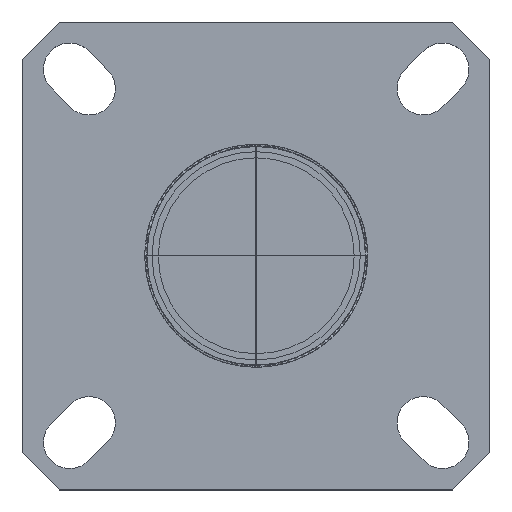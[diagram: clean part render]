
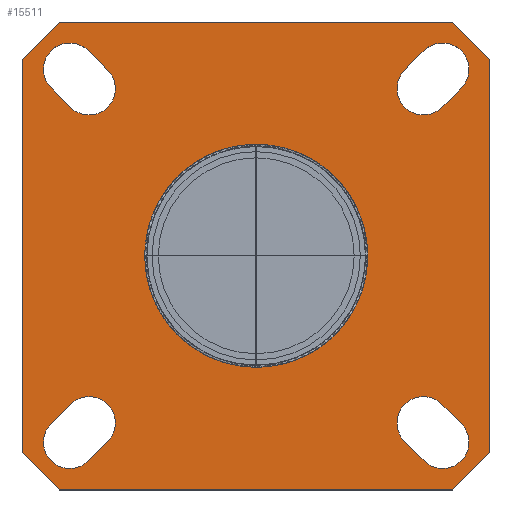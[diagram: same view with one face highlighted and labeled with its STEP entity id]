
A CAD part, top view. The second image highlights one B-rep face of the part: STEP entity #15511.
In plain terms, the highlighted planar face has unit normal (0, 0, 1).
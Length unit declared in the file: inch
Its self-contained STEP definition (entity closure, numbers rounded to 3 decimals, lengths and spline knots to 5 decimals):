
#5010=CARTESIAN_POINT('',(0.,0.,0.));
#5011=DIRECTION('',(0.,0.,1.));
#5012=DIRECTION('',(1.,0.,0.));
#5013=AXIS2_PLACEMENT_3D('',#5010,#5011,#5012);
#6504=DIRECTION('',(0.707,0.707,0.));
#6505=VECTOR('',#6504,0.128);
#6506=CARTESIAN_POINT('',(-0.569,0.47749,0.));
#6507=LINE('',#6506,#6505);
#6508=DIRECTION('',(1.,0.,0.));
#6509=VECTOR('',#6508,0.95598);
#6510=CARTESIAN_POINT('',(-0.47849,0.568,0.));
#6511=LINE('',#6510,#6509);
#6512=DIRECTION('',(0.707,-0.707,0.));
#6513=VECTOR('',#6512,0.128);
#6514=CARTESIAN_POINT('',(0.47749,0.568,0.));
#6515=LINE('',#6514,#6513);
#6516=DIRECTION('',(0.,-1.,0.));
#6517=VECTOR('',#6516,0.95598);
#6518=CARTESIAN_POINT('',(0.568,0.47749,0.));
#6519=LINE('',#6518,#6517);
#6520=DIRECTION('',(-0.707,-0.707,0.));
#6521=VECTOR('',#6520,0.128);
#6522=CARTESIAN_POINT('',(0.568,-0.47849,0.));
#6523=LINE('',#6522,#6521);
#6524=DIRECTION('',(-1.,0.,0.));
#6525=VECTOR('',#6524,0.95598);
#6526=CARTESIAN_POINT('',(0.47749,-0.569,0.));
#6527=LINE('',#6526,#6525);
#6528=DIRECTION('',(-0.707,0.707,0.));
#6529=VECTOR('',#6528,0.128);
#6530=CARTESIAN_POINT('',(-0.47849,-0.569,0.));
#6531=LINE('',#6530,#6529);
#6532=DIRECTION('',(0.,1.,0.));
#6533=VECTOR('',#6532,0.95598);
#6534=CARTESIAN_POINT('',(-0.569,-0.47849,0.));
#6535=LINE('',#6534,#6533);
#6536=DIRECTION('',(-0.707,-0.707,0.));
#6537=VECTOR('',#6536,0.06647);
#6538=CARTESIAN_POINT('',(-0.45125,-0.36075,0.));
#6539=LINE('',#6538,#6537);
#6540=CARTESIAN_POINT('',(-0.453,-0.453,0.));
#6541=DIRECTION('',(0.,0.,1.));
#6542=DIRECTION('',(-0.707,0.707,0.));
#6543=AXIS2_PLACEMENT_3D('',#6540,#6541,#6542);
#6545=DIRECTION('',(0.707,0.707,0.));
#6546=VECTOR('',#6545,0.06647);
#6547=CARTESIAN_POINT('',(-0.40775,-0.49825,0.));
#6548=LINE('',#6547,#6546);
#6549=CARTESIAN_POINT('',(-0.406,-0.406,0.));
#6550=DIRECTION('',(0.,0.,1.));
#6551=DIRECTION('',(0.707,-0.707,0.));
#6552=AXIS2_PLACEMENT_3D('',#6549,#6550,#6551);
#6554=DIRECTION('',(0.707,-0.707,0.));
#6555=VECTOR('',#6554,0.06647);
#6556=CARTESIAN_POINT('',(-0.49825,0.40775,0.));
#6557=LINE('',#6556,#6555);
#6558=CARTESIAN_POINT('',(-0.406,0.406,0.));
#6559=DIRECTION('',(0.,0.,1.));
#6560=DIRECTION('',(-0.707,-0.707,0.));
#6561=AXIS2_PLACEMENT_3D('',#6558,#6559,#6560);
#6563=DIRECTION('',(-0.707,0.707,0.));
#6564=VECTOR('',#6563,0.06647);
#6565=CARTESIAN_POINT('',(-0.36075,0.45125,0.));
#6566=LINE('',#6565,#6564);
#6567=CARTESIAN_POINT('',(-0.453,0.453,0.));
#6568=DIRECTION('',(0.,0.,1.));
#6569=DIRECTION('',(0.707,0.707,0.));
#6570=AXIS2_PLACEMENT_3D('',#6567,#6568,#6569);
#6572=DIRECTION('',(-0.707,-0.707,0.));
#6573=VECTOR('',#6572,0.06647);
#6574=CARTESIAN_POINT('',(0.40775,0.49825,0.));
#6575=LINE('',#6574,#6573);
#6576=CARTESIAN_POINT('',(0.406,0.406,0.));
#6577=DIRECTION('',(0.,0.,1.));
#6578=DIRECTION('',(-0.707,0.707,0.));
#6579=AXIS2_PLACEMENT_3D('',#6576,#6577,#6578);
#6581=DIRECTION('',(0.707,0.707,0.));
#6582=VECTOR('',#6581,0.06647);
#6583=CARTESIAN_POINT('',(0.45125,0.36075,0.));
#6584=LINE('',#6583,#6582);
#6585=CARTESIAN_POINT('',(0.453,0.453,0.));
#6586=DIRECTION('',(0.,0.,1.));
#6587=DIRECTION('',(0.707,-0.707,0.));
#6588=AXIS2_PLACEMENT_3D('',#6585,#6586,#6587);
#6590=CARTESIAN_POINT('',(0.406,-0.406,0.));
#6591=DIRECTION('',(0.,0.,1.));
#6592=DIRECTION('',(0.707,0.707,0.));
#6593=AXIS2_PLACEMENT_3D('',#6590,#6591,#6592);
#6595=DIRECTION('',(0.707,-0.707,0.));
#6596=VECTOR('',#6595,0.06647);
#6597=CARTESIAN_POINT('',(0.36075,-0.45125,0.));
#6598=LINE('',#6597,#6596);
#6599=CARTESIAN_POINT('',(0.453,-0.453,0.));
#6600=DIRECTION('',(0.,0.,1.));
#6601=DIRECTION('',(-0.707,-0.707,0.));
#6602=AXIS2_PLACEMENT_3D('',#6599,#6600,#6601);
#6604=DIRECTION('',(-0.707,0.707,0.));
#6605=VECTOR('',#6604,0.06647);
#6606=CARTESIAN_POINT('',(0.49825,-0.40775,0.));
#6607=LINE('',#6606,#6605);
#6808=CARTESIAN_POINT('',(0.,0.,0.));
#6809=DIRECTION('',(0.,0.,1.));
#6810=DIRECTION('',(-1.,0.,0.));
#6811=AXIS2_PLACEMENT_3D('',#6808,#6809,#6810);
#11686=CARTESIAN_POINT('',(-0.569,0.47749,0.));
#11687=CARTESIAN_POINT('',(-0.47849,0.568,0.));
#11688=VERTEX_POINT('',#11686);
#11689=VERTEX_POINT('',#11687);
#11690=CARTESIAN_POINT('',(0.47749,0.568,0.));
#11691=VERTEX_POINT('',#11690);
#11692=CARTESIAN_POINT('',(0.568,0.47749,0.));
#11693=VERTEX_POINT('',#11692);
#11694=CARTESIAN_POINT('',(0.568,-0.47849,0.));
#11695=VERTEX_POINT('',#11694);
#11696=CARTESIAN_POINT('',(0.47749,-0.569,0.));
#11697=VERTEX_POINT('',#11696);
#11698=CARTESIAN_POINT('',(-0.47849,-0.569,0.));
#11699=VERTEX_POINT('',#11698);
#11700=CARTESIAN_POINT('',(-0.569,-0.47849,0.));
#11701=VERTEX_POINT('',#11700);
#11702=CARTESIAN_POINT('',(-0.45125,-0.36075,0.));
#11703=CARTESIAN_POINT('',(-0.49825,-0.40775,0.));
#11704=VERTEX_POINT('',#11702);
#11705=VERTEX_POINT('',#11703);
#11706=CARTESIAN_POINT('',(-0.40775,-0.49825,0.));
#11707=VERTEX_POINT('',#11706);
#11708=CARTESIAN_POINT('',(-0.36075,-0.45125,0.));
#11709=VERTEX_POINT('',#11708);
#11710=CARTESIAN_POINT('',(-0.49825,0.40775,0.));
#11711=CARTESIAN_POINT('',(-0.45125,0.36075,0.));
#11712=VERTEX_POINT('',#11710);
#11713=VERTEX_POINT('',#11711);
#11714=CARTESIAN_POINT('',(-0.36075,0.45125,0.));
#11715=VERTEX_POINT('',#11714);
#11716=CARTESIAN_POINT('',(-0.40775,0.49825,0.));
#11717=VERTEX_POINT('',#11716);
#11718=CARTESIAN_POINT('',(0.40775,0.49825,0.));
#11719=CARTESIAN_POINT('',(0.36075,0.45125,0.));
#11720=VERTEX_POINT('',#11718);
#11721=VERTEX_POINT('',#11719);
#11722=CARTESIAN_POINT('',(0.45125,0.36075,0.));
#11723=VERTEX_POINT('',#11722);
#11724=CARTESIAN_POINT('',(0.49825,0.40775,0.));
#11725=VERTEX_POINT('',#11724);
#11726=CARTESIAN_POINT('',(0.45125,-0.36075,0.));
#11727=CARTESIAN_POINT('',(0.36075,-0.45125,0.));
#11728=VERTEX_POINT('',#11726);
#11729=VERTEX_POINT('',#11727);
#11730=CARTESIAN_POINT('',(0.40775,-0.49825,0.));
#11731=VERTEX_POINT('',#11730);
#11732=CARTESIAN_POINT('',(0.49825,-0.40775,0.));
#11733=VERTEX_POINT('',#11732);
#11782=CARTESIAN_POINT('',(0.2705,0.,0.));
#11783=CARTESIAN_POINT('',(-0.2705,0.,0.));
#11784=VERTEX_POINT('',#11782);
#11785=VERTEX_POINT('',#11783);
#15443=CARTESIAN_POINT('',(0.,0.,0.));
#15444=DIRECTION('',(0.,0.,-1.));
#15445=DIRECTION('',(0.,-1.,0.));
#15446=AXIS2_PLACEMENT_3D('',#15443,#15444,#15445);
#15447=PLANE('',#15446);
#15449=ORIENTED_EDGE('',*,*,#15448,.T.);
#15451=ORIENTED_EDGE('',*,*,#15450,.T.);
#15453=ORIENTED_EDGE('',*,*,#15452,.T.);
#15455=ORIENTED_EDGE('',*,*,#15454,.T.);
#15457=ORIENTED_EDGE('',*,*,#15456,.T.);
#15459=ORIENTED_EDGE('',*,*,#15458,.T.);
#15461=ORIENTED_EDGE('',*,*,#15460,.T.);
#15463=ORIENTED_EDGE('',*,*,#15462,.T.);
#15464=EDGE_LOOP('',(#15449,#15451,#15453,#15455,#15457,#15459,#15461,#15463));
#15465=FACE_OUTER_BOUND('',#15464,.F.);
#15467=ORIENTED_EDGE('',*,*,#15466,.T.);
#15469=ORIENTED_EDGE('',*,*,#15468,.T.);
#15471=ORIENTED_EDGE('',*,*,#15470,.T.);
#15473=ORIENTED_EDGE('',*,*,#15472,.T.);
#15474=EDGE_LOOP('',(#15467,#15469,#15471,#15473));
#15475=FACE_BOUND('',#15474,.F.);
#15477=ORIENTED_EDGE('',*,*,#15476,.T.);
#15479=ORIENTED_EDGE('',*,*,#15478,.T.);
#15481=ORIENTED_EDGE('',*,*,#15480,.T.);
#15483=ORIENTED_EDGE('',*,*,#15482,.T.);
#15484=EDGE_LOOP('',(#15477,#15479,#15481,#15483));
#15485=FACE_BOUND('',#15484,.F.);
#15487=ORIENTED_EDGE('',*,*,#15486,.T.);
#15489=ORIENTED_EDGE('',*,*,#15488,.T.);
#15491=ORIENTED_EDGE('',*,*,#15490,.T.);
#15493=ORIENTED_EDGE('',*,*,#15492,.T.);
#15494=EDGE_LOOP('',(#15487,#15489,#15491,#15493));
#15495=FACE_BOUND('',#15494,.F.);
#15497=ORIENTED_EDGE('',*,*,#15496,.T.);
#15499=ORIENTED_EDGE('',*,*,#15498,.T.);
#15501=ORIENTED_EDGE('',*,*,#15500,.T.);
#15503=ORIENTED_EDGE('',*,*,#15502,.T.);
#15504=EDGE_LOOP('',(#15497,#15499,#15501,#15503));
#15505=FACE_BOUND('',#15504,.F.);
#15506=ORIENTED_EDGE('',*,*,#14940,.T.);
#15508=ORIENTED_EDGE('',*,*,#15507,.T.);
#15509=EDGE_LOOP('',(#15506,#15508));
#15510=FACE_BOUND('',#15509,.F.);
#15511=ADVANCED_FACE('',(#15465,#15475,#15485,#15495,#15505,#15510),#15447,.F.);
#5014=CIRCLE('',#5013,0.2705);
#6544=CIRCLE('',#6543,0.064);
#6553=CIRCLE('',#6552,0.064);
#6562=CIRCLE('',#6561,0.064);
#6571=CIRCLE('',#6570,0.064);
#6580=CIRCLE('',#6579,0.064);
#6589=CIRCLE('',#6588,0.064);
#6594=CIRCLE('',#6593,0.064);
#6603=CIRCLE('',#6602,0.064);
#6812=CIRCLE('',#6811,0.2705);
#14940=EDGE_CURVE('',#11784,#11785,#5014,.T.);
#15448=EDGE_CURVE('',#11688,#11689,#6507,.T.);
#15450=EDGE_CURVE('',#11689,#11691,#6511,.T.);
#15452=EDGE_CURVE('',#11691,#11693,#6515,.T.);
#15454=EDGE_CURVE('',#11693,#11695,#6519,.T.);
#15456=EDGE_CURVE('',#11695,#11697,#6523,.T.);
#15458=EDGE_CURVE('',#11697,#11699,#6527,.T.);
#15460=EDGE_CURVE('',#11699,#11701,#6531,.T.);
#15462=EDGE_CURVE('',#11701,#11688,#6535,.T.);
#15466=EDGE_CURVE('',#11704,#11705,#6539,.T.);
#15468=EDGE_CURVE('',#11705,#11707,#6544,.T.);
#15470=EDGE_CURVE('',#11707,#11709,#6548,.T.);
#15472=EDGE_CURVE('',#11709,#11704,#6553,.T.);
#15476=EDGE_CURVE('',#11712,#11713,#6557,.T.);
#15478=EDGE_CURVE('',#11713,#11715,#6562,.T.);
#15480=EDGE_CURVE('',#11715,#11717,#6566,.T.);
#15482=EDGE_CURVE('',#11717,#11712,#6571,.T.);
#15486=EDGE_CURVE('',#11720,#11721,#6575,.T.);
#15488=EDGE_CURVE('',#11721,#11723,#6580,.T.);
#15490=EDGE_CURVE('',#11723,#11725,#6584,.T.);
#15492=EDGE_CURVE('',#11725,#11720,#6589,.T.);
#15496=EDGE_CURVE('',#11728,#11729,#6594,.T.);
#15498=EDGE_CURVE('',#11729,#11731,#6598,.T.);
#15500=EDGE_CURVE('',#11731,#11733,#6603,.T.);
#15502=EDGE_CURVE('',#11733,#11728,#6607,.T.);
#15507=EDGE_CURVE('',#11785,#11784,#6812,.T.);
